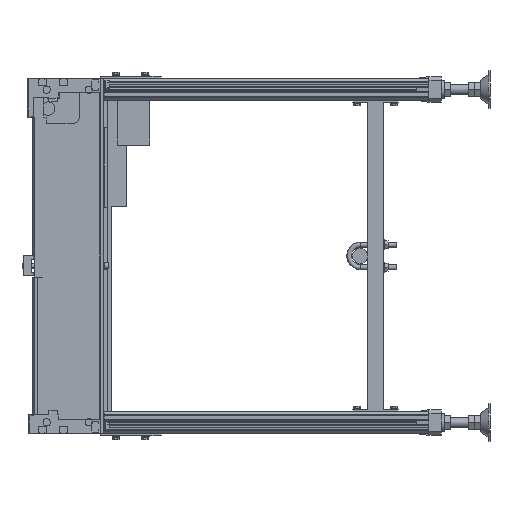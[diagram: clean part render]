
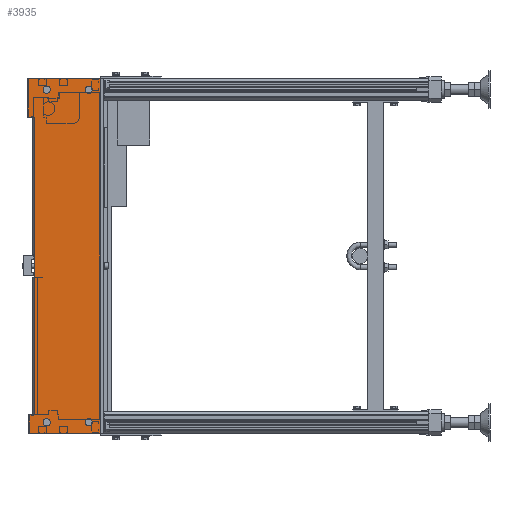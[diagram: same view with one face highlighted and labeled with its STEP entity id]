
A CAD part, left-side view. The second image highlights one B-rep face of the part: STEP entity #3935.
In plain terms, the highlighted planar face has unit normal (-1, 0, 0).
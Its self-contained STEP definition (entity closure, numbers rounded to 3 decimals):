
#3935=ADVANCED_FACE('',(#30031,#30032,#30033,#30034,#30035),#30030,.T.);
#30030=PLANE('',#46058);
#30031=FACE_OUTER_BOUND('',#46059,.T.);
#30032=FACE_BOUND('',#46060,.T.);
#30033=FACE_BOUND('',#46061,.T.);
#30034=FACE_BOUND('',#46062,.T.);
#30035=FACE_BOUND('',#46063,.T.);
#46055=CARTESIAN_POINT('',(-1.2,-121.1,-284.75));
#46056=DIRECTION('',(-1.,0.,0.));
#46057=DIRECTION('',(0.,0.,1.));
#46058=AXIS2_PLACEMENT_3D('',#46055,#46056,#46057);
#46059=EDGE_LOOP('',(#60664,#60665,#60666,#60667,#60668,#60669,#60670,#60671));
#46060=EDGE_LOOP('',(#60672,#60673));
#46061=EDGE_LOOP('',(#60674,#60675));
#46062=EDGE_LOOP('',(#60676,#60677));
#46063=EDGE_LOOP('',(#60678,#60679));
#60664=ORIENTED_EDGE('',*,*,#68440,.F.);
#60665=ORIENTED_EDGE('',*,*,#68444,.F.);
#60666=ORIENTED_EDGE('',*,*,#68446,.F.);
#60667=ORIENTED_EDGE('',*,*,#68448,.F.);
#60668=ORIENTED_EDGE('',*,*,#68450,.F.);
#60669=ORIENTED_EDGE('',*,*,#68452,.F.);
#60670=ORIENTED_EDGE('',*,*,#68454,.F.);
#60671=ORIENTED_EDGE('',*,*,#68455,.F.);
#60672=ORIENTED_EDGE('',*,*,#68456,.F.);
#60673=ORIENTED_EDGE('',*,*,#68457,.F.);
#60674=ORIENTED_EDGE('',*,*,#68458,.F.);
#60675=ORIENTED_EDGE('',*,*,#68459,.F.);
#60676=ORIENTED_EDGE('',*,*,#68460,.F.);
#60677=ORIENTED_EDGE('',*,*,#68461,.F.);
#60678=ORIENTED_EDGE('',*,*,#68462,.F.);
#60679=ORIENTED_EDGE('',*,*,#68463,.F.);
#68440=EDGE_CURVE('',#113212,#113219,#113220,.T.);
#68444=EDGE_CURVE('',#113238,#113212,#113245,.T.);
#68446=EDGE_CURVE('',#113251,#113238,#113258,.T.);
#68448=EDGE_CURVE('',#113264,#113251,#113271,.T.);
#68450=EDGE_CURVE('',#113277,#113264,#113284,.T.);
#68452=EDGE_CURVE('',#113290,#113277,#113297,.T.);
#68454=EDGE_CURVE('',#113303,#113290,#113310,.T.);
#68455=EDGE_CURVE('',#113219,#113303,#113316,.T.);
#68456=EDGE_CURVE('',#113322,#113323,#113324,.T.);
#68457=EDGE_CURVE('',#113323,#113322,#113330,.T.);
#68458=EDGE_CURVE('',#113336,#113337,#113338,.T.);
#68459=EDGE_CURVE('',#113337,#113336,#113344,.T.);
#68460=EDGE_CURVE('',#113350,#113351,#113352,.T.);
#68461=EDGE_CURVE('',#113351,#113350,#113358,.T.);
#68462=EDGE_CURVE('',#113364,#113365,#113366,.T.);
#68463=EDGE_CURVE('',#113365,#113364,#113372,.T.);
#113212=VERTEX_POINT('',#142865);
#113219=VERTEX_POINT('',#142869);
#113220=LINE('',#142870,#142871);
#113238=VERTEX_POINT('',#142879);
#113245=LINE('',#142883,#142884);
#113251=VERTEX_POINT('',#142886);
#113258=LINE('',#142890,#142891);
#113264=VERTEX_POINT('',#142893);
#113271=LINE('',#142897,#142898);
#113277=VERTEX_POINT('',#142900);
#113284=LINE('',#142904,#142905);
#113290=VERTEX_POINT('',#142907);
#113297=LINE('',#142911,#142912);
#113303=VERTEX_POINT('',#142914);
#113310=LINE('',#142918,#142919);
#113316=LINE('',#142921,#142922);
#113322=VERTEX_POINT('',#142924);
#113323=VERTEX_POINT('',#142925);
#113324=CIRCLE('',#142929,5.9);
#113330=CIRCLE('',#142933,5.9);
#113336=VERTEX_POINT('',#142934);
#113337=VERTEX_POINT('',#142935);
#113338=CIRCLE('',#142939,5.9);
#113344=CIRCLE('',#142943,5.9);
#113350=VERTEX_POINT('',#142944);
#113351=VERTEX_POINT('',#142945);
#113352=CIRCLE('',#142949,5.9);
#113358=CIRCLE('',#142953,5.9);
#113364=VERTEX_POINT('',#142954);
#113365=VERTEX_POINT('',#142955);
#113366=CIRCLE('',#142959,5.9);
#113372=CIRCLE('',#142963,5.9);
#142865=CARTESIAN_POINT('',(-1.2,-111.1,-274.75));
#142869=CARTESIAN_POINT('',(-1.2,4.9,-274.75));
#142870=CARTESIAN_POINT('',(-1.2,-111.1,-274.75));
#142871=VECTOR('',#142872,116.);
#142872=DIRECTION('',(0.,1.,0.));
#142879=CARTESIAN_POINT('',(-1.2,-111.1,307.25));
#142883=CARTESIAN_POINT('',(-1.2,-111.1,307.25));
#142884=VECTOR('',#142885,582.);
#142885=DIRECTION('',(0.,0.,-1.));
#142886=CARTESIAN_POINT('',(-1.2,6.9,307.25));
#142890=CARTESIAN_POINT('',(-1.2,6.9,307.25));
#142891=VECTOR('',#142892,118.);
#142892=DIRECTION('',(0.,-1.,0.));
#142893=CARTESIAN_POINT('',(-1.2,6.9,243.75));
#142897=CARTESIAN_POINT('',(-1.2,6.9,243.75));
#142898=VECTOR('',#142899,63.5);
#142899=DIRECTION('',(0.,0.,1.));
#142900=CARTESIAN_POINT('',(-1.2,-3.6,243.75));
#142904=CARTESIAN_POINT('',(-1.2,-3.6,243.75));
#142905=VECTOR('',#142906,10.5);
#142906=DIRECTION('',(0.,1.,0.));
#142907=CARTESIAN_POINT('',(-1.2,-3.6,-243.75));
#142911=CARTESIAN_POINT('',(-1.2,-3.6,-243.75));
#142912=VECTOR('',#142913,487.5);
#142913=DIRECTION('',(0.,0.,1.));
#142914=CARTESIAN_POINT('',(-1.2,4.9,-243.75));
#142918=CARTESIAN_POINT('',(-1.2,4.9,-243.75));
#142919=VECTOR('',#142920,8.5);
#142920=DIRECTION('',(0.,-1.,0.));
#142921=CARTESIAN_POINT('',(-1.2,4.9,-274.75));
#142922=VECTOR('',#142923,31.);
#142923=DIRECTION('',(0.,0.,1.));
#142924=CARTESIAN_POINT('',(-1.2,-92.6,-250.35));
#142925=CARTESIAN_POINT('',(-1.2,-92.6,-262.15));
#142926=CARTESIAN_POINT('',(-1.2,-92.6,-256.25));
#142927=DIRECTION('',(-1.,0.,0.));
#142928=DIRECTION('',(0.,0.,-1.));
#142929=AXIS2_PLACEMENT_3D('',#142926,#142927,#142928);
#142930=CARTESIAN_POINT('',(-1.2,-92.6,-256.25));
#142931=DIRECTION('',(-1.,0.,0.));
#142932=DIRECTION('',(0.,0.,-1.));
#142933=AXIS2_PLACEMENT_3D('',#142930,#142931,#142932);
#142934=CARTESIAN_POINT('',(-1.2,-92.6,282.85));
#142935=CARTESIAN_POINT('',(-1.2,-92.6,294.65));
#142936=CARTESIAN_POINT('',(-1.2,-92.6,288.75));
#142937=DIRECTION('',(-1.,0.,0.));
#142938=DIRECTION('',(0.,0.,1.));
#142939=AXIS2_PLACEMENT_3D('',#142936,#142937,#142938);
#142940=CARTESIAN_POINT('',(-1.2,-92.6,288.75));
#142941=DIRECTION('',(-1.,0.,0.));
#142942=DIRECTION('',(0.,0.,1.));
#142943=AXIS2_PLACEMENT_3D('',#142940,#142941,#142942);
#142944=CARTESIAN_POINT('',(-1.2,-23.6,282.85));
#142945=CARTESIAN_POINT('',(-1.2,-23.6,294.65));
#142946=CARTESIAN_POINT('',(-1.2,-23.6,288.75));
#142947=DIRECTION('',(-1.,0.,0.));
#142948=DIRECTION('',(0.,0.,1.));
#142949=AXIS2_PLACEMENT_3D('',#142946,#142947,#142948);
#142950=CARTESIAN_POINT('',(-1.2,-23.6,288.75));
#142951=DIRECTION('',(-1.,0.,0.));
#142952=DIRECTION('',(0.,0.,1.));
#142953=AXIS2_PLACEMENT_3D('',#142950,#142951,#142952);
#142954=CARTESIAN_POINT('',(-1.2,-23.6,-250.35));
#142955=CARTESIAN_POINT('',(-1.2,-23.6,-262.15));
#142956=CARTESIAN_POINT('',(-1.2,-23.6,-256.25));
#142957=DIRECTION('',(-1.,0.,0.));
#142958=DIRECTION('',(0.,0.,-1.));
#142959=AXIS2_PLACEMENT_3D('',#142956,#142957,#142958);
#142960=CARTESIAN_POINT('',(-1.2,-23.6,-256.25));
#142961=DIRECTION('',(-1.,0.,0.));
#142962=DIRECTION('',(0.,0.,-1.));
#142963=AXIS2_PLACEMENT_3D('',#142960,#142961,#142962);
